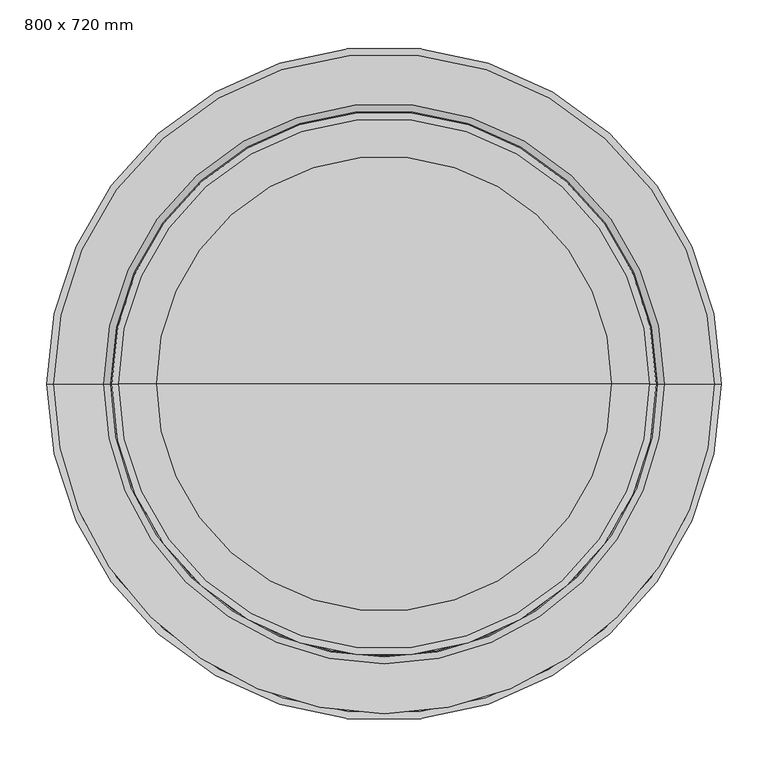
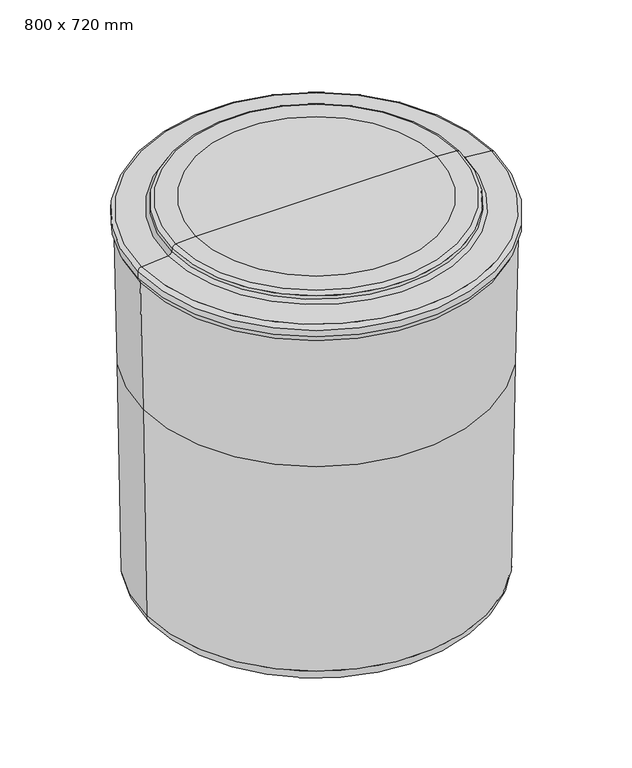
"""IFC4 building model written with IfcOpenShell, lengths in millimetres: proxy geometry, BWT_Bac à sel type 1 : 800 x 720 mm."""

from ifc_helpers import new_model, si_unit, point, frame, origin, place, context, project, spatial, polyline, circle_curve, ellipse_curve, trimmed, source, transform, mapped, element, save
from ifc_brep_helpers import plane_surface, cylinder_surface, revolved_surface, advanced_brep


def proxy_800_x_720_mm_2ee91da9(model_context):
    return source(origin(), model_context, "Body", "AdvancedBrep", [
        advanced_brep(
        [(348.4607428, 0.0, 468.7394346), (-348.4607428, 0.0, 468.7394346), (-354.0, 0.0, 740.0), (354.0, 0.0, 740.0), (341.4173957, 0.0, 28.3474108), (-341.4173957, 0.0, 28.3474108), (0.0, 0.0, 0.0), (-313.5, 0.0, 0.0), (313.5, 0.0, 0.0), (242.2953745, 0.0, 800.0), (-242.2953745, 0.0, 800.0), (0.0, 0.0, 800.0), (282.6452336, 0.0, 797.7126502), (-282.6452336, 0.0, 797.7126502), (290.105008, 0.0, 791.1127994), (-290.105008, 0.0, 791.1127994), (291.203396, 0.0, 784.8835314), (-291.203396, 0.0, 784.8835314), (298.3846121, 0.0, 778.3031593), (-298.3846121, 0.0, 778.3031593), (351.6972459, 0.0, 773.6389082), (-351.6972459, 0.0, 773.6389082), (359.0, 0.0, 765.6693506), (-359.0, 0.0, 765.6693506), (359.0, 0.0, 752.0), (-359.0, 0.0, 752.0), (356.5506787, 0.0, 752.0), (-356.5506787, 0.0, 752.0)],
        [
            (0, 1, circle_curve(frame((0.0, 0.0, 468.7394346), z_axis=(0.0, 0.0, 1.0), x_axis=(-1.0, 0.0, 0.0)), 348.4607428)),
            (1, 2),
            (2, 3, circle_curve(frame((0.0, 0.0, 740.0), z_axis=(0.0, 0.0, -1.0), x_axis=(-1.0, 0.0, 0.0)), 354.0)),
            (3, 0),
            (1, 0, circle_curve(frame((0.0, 0.0, 468.7394346), z_axis=(0.0, 0.0, 1.0), x_axis=(-1.0, 0.0, 0.0)), 348.4607428)),
            (3, 2, circle_curve(frame((0.0, 0.0, 740.0), z_axis=(0.0, 0.0, -1.0), x_axis=(-1.0, 0.0, 0.0)), 354.0)),
            (4, 5, circle_curve(frame((0.0, 0.0, 28.3474108), z_axis=(0.0, 0.0, 1.0), x_axis=(-1.0, 0.0, 0.0)), 341.4173957)),
            (5, 1),
            (0, 4),
            (5, 4, circle_curve(frame((0.0, 0.0, 28.3474108), z_axis=(0.0, 0.0, 1.0), x_axis=(-1.0, 0.0, 0.0)), 341.4173957)),
            (6, 7),
            (7, 8, circle_curve(frame((0.0, 0.0, 0.0), z_axis=(0.0, 0.0, -1.0), x_axis=(-1.0, 0.0, 0.0)), 313.5)),
            (8, 6),
            (8, 7, circle_curve(frame((0.0, 0.0, 0.0), z_axis=(0.0, 0.0, -1.0), x_axis=(-1.0, 0.0, 0.0)), 313.5)),
            (9, 10, circle_curve(frame((0.0, 0.0, 800.0), z_axis=(0.0, 0.0, 1.0), x_axis=(-1.0, 0.0, 0.0)), 242.2953745)),
            (10, 11),
            (11, 9),
            (10, 9, circle_curve(frame((0.0, 0.0, 800.0), z_axis=(0.0, 0.0, 1.0), x_axis=(-1.0, 0.0, 0.0)), 242.2953745)),
            (12, 13, circle_curve(frame((0.0, 0.0, 797.7126502), z_axis=(0.0, 0.0, 1.0), x_axis=(-1.0, 0.0, 0.0)), 282.6452336)),
            (13, 10),
            (9, 12),
            (13, 12, circle_curve(frame((0.0, 0.0, 797.7126502), z_axis=(0.0, 0.0, 1.0), x_axis=(-1.0, 0.0, 0.0)), 282.6452336)),
            (14, 15, circle_curve(frame((0.0, 0.0, 791.1127994), z_axis=(0.0, 0.0, 1.0), x_axis=(-1.0, 0.0, 0.0)), 290.105008)),
            (15, 13, circle_curve(frame((-282.226546, 0.0, 789.723614), z_axis=(0.0, 1.0, 0.0), x_axis=(1.0, 0.0, 0.0)), 8.0)),
            (12, 14, circle_curve(frame((282.226546, 0.0, 789.723614), z_axis=(0.0, 1.0, 0.0), x_axis=(-1.0, 0.0, 0.0)), 8.0)),
            (15, 14, circle_curve(frame((0.0, 0.0, 791.1127994), z_axis=(0.0, 0.0, 1.0), x_axis=(-1.0, 0.0, 0.0)), 290.105008)),
            (16, 17, circle_curve(frame((0.0, 0.0, 784.8835314), z_axis=(0.0, 0.0, 1.0), x_axis=(-1.0, 0.0, 0.0)), 291.203396)),
            (17, 15),
            (14, 16),
            (17, 16, circle_curve(frame((0.0, 0.0, 784.8835314), z_axis=(0.0, 0.0, 1.0), x_axis=(-1.0, 0.0, 0.0)), 291.203396)),
            (18, 19, circle_curve(frame((0.0, 0.0, 778.3031593), z_axis=(0.0, 0.0, 1.0), x_axis=(-1.0, 0.0, 0.0)), 298.3846121)),
            (19, 17, circle_curve(frame((-299.081858, 0.0, 786.2727169), z_axis=(0.0, -1.0, 0.0), x_axis=(1.0, 0.0, 0.0)), 8.0)),
            (16, 18, circle_curve(frame((299.081858, 0.0, 786.2727169), z_axis=(0.0, -1.0, 0.0), x_axis=(-1.0, 0.0, 0.0)), 8.0)),
            (19, 18, circle_curve(frame((0.0, 0.0, 778.3031593), z_axis=(0.0, 0.0, 1.0), x_axis=(-1.0, 0.0, 0.0)), 298.3846121)),
            (20, 21, circle_curve(frame((0.0, 0.0, 773.6389082), z_axis=(0.0, 0.0, 1.0), x_axis=(-1.0, 0.0, 0.0)), 351.6972459)),
            (21, 19),
            (18, 20),
            (21, 20, circle_curve(frame((0.0, 0.0, 773.6389082), z_axis=(0.0, 0.0, 1.0), x_axis=(-1.0, 0.0, 0.0)), 351.6972459)),
            (22, 23, circle_curve(frame((0.0, 0.0, 765.6693506), z_axis=(0.0, 0.0, 1.0), x_axis=(-1.0, 0.0, 0.0)), 359.0)),
            (23, 21, circle_curve(frame((-351.0, 0.0, 765.6693506), z_axis=(0.0, 1.0, 0.0), x_axis=(1.0, 0.0, 0.0)), 8.0)),
            (20, 22, circle_curve(frame((351.0, 0.0, 765.6693506), z_axis=(0.0, 1.0, 0.0), x_axis=(-1.0, 0.0, 0.0)), 8.0)),
            (23, 22, circle_curve(frame((0.0, 0.0, 765.6693506), z_axis=(0.0, 0.0, 1.0), x_axis=(-1.0, 0.0, 0.0)), 359.0)),
            (24, 25, circle_curve(frame((0.0, 0.0, 752.0), z_axis=(0.0, 0.0, 1.0), x_axis=(-1.0, 0.0, 0.0)), 359.0)),
            (25, 23),
            (22, 24),
            (25, 24, circle_curve(frame((0.0, 0.0, 752.0), z_axis=(0.0, 0.0, 1.0), x_axis=(-1.0, 0.0, 0.0)), 359.0)),
            (26, 27, circle_curve(frame((0.0, 0.0, 752.0), z_axis=(0.0, 0.0, 1.0), x_axis=(-1.0, 0.0, 0.0)), 356.5506787)),
            (27, 25),
            (24, 26),
            (27, 26, circle_curve(frame((0.0, 0.0, 752.0), z_axis=(0.0, 0.0, 1.0), x_axis=(-1.0, 0.0, 0.0)), 356.5506787)),
            (2, 27),
            (26, 3),
            (7, 5, circle_curve(frame((-312.424297, 0.0, 28.9800425), z_axis=(0.0, 1.0, 0.0), x_axis=(1.0, 0.0, 0.0)), 29.0)),
            (4, 8, circle_curve(frame((312.424297, 0.0, 28.9800425), z_axis=(0.0, 1.0, 0.0), x_axis=(-1.0, 0.0, 0.0)), 29.0)),
        ],
        [
            revolved_surface(polyline([(-354.0, 0.0, 740.0), (-348.4607428, 0.0, 468.7394346)]), (0.0, 0.0, 2224.3150031), (0.0, 0.0, -1.0)),
            revolved_surface(polyline([(-348.4607428, 0.0, 468.7394346), (-341.4173957, 0.0, 28.3474108)]), (0.0, 0.0, 2224.3150031), (0.0, 0.0, -1.0)),
            plane_surface(frame((0.0, 0.0, 0.0), z_axis=(0.0, 0.0, -1.0), x_axis=(-1.0, 0.0, 0.0))),
            plane_surface(frame((0.0, 0.0, 800.0), z_axis=(0.0, 0.0, 1.0), x_axis=(-1.0, 0.0, 0.0))),
            revolved_surface(polyline([(-242.2953745, 0.0, 800.0), (-282.6452336, 0.0, 797.7126502)]), (0.0, 0.0, 2224.3150031), (0.0, 0.0, -1.0)),
            revolved_surface(trimmed(ellipse_curve(frame((-282.226546, 0.0, 789.723614), z_axis=(0.0, -1.0, 0.0), x_axis=(1.0, 0.0, 0.0)), 8.0, 8.0), [point((-282.6452336, 0.0, 797.7126502))], [point((-290.105008, 0.0, 791.1127994))], True, "CARTESIAN"), (0.0, 0.0, 2224.3150031), (0.0, 0.0, -1.0)),
            revolved_surface(polyline([(-290.105008, 0.0, 791.1127994), (-291.203396, 0.0, 784.8835314)]), (0.0, 0.0, 2224.3150031), (0.0, 0.0, -1.0)),
            revolved_surface(trimmed(ellipse_curve(frame((-299.081858, 0.0, 786.2727169), z_axis=(0.0, 1.0, 0.0), x_axis=(1.0, 0.0, 0.0)), 8.0, 8.0), [point((-291.203396, 0.0, 784.8835314))], [point((-298.3846121, 0.0, 778.3031593))], True, "CARTESIAN"), (0.0, 0.0, 2224.3150031), (0.0, 0.0, -1.0)),
            revolved_surface(polyline([(-298.3846121, 0.0, 778.3031593), (-351.6972459, 0.0, 773.6389082)]), (0.0, 0.0, 2224.3150031), (0.0, 0.0, -1.0)),
            revolved_surface(trimmed(ellipse_curve(frame((-351.0, 0.0, 765.6693506), z_axis=(0.0, -1.0, 0.0), x_axis=(1.0, 0.0, 0.0)), 8.0, 8.0), [point((-351.6972459, 0.0, 773.6389082))], [point((-359.0, 0.0, 765.6693506))], True, "CARTESIAN"), (0.0, 0.0, 2224.3150031), (0.0, 0.0, -1.0)),
            cylinder_surface(frame((0.0, 0.0, 2224.3150031), z_axis=(0.0, 0.0, -1.0), x_axis=(-1.0, 0.0, 0.0)), 359.0),
            plane_surface(frame((0.0, 0.0, 752.0), z_axis=(0.0, 0.0, -1.0), x_axis=(-1.0, 0.0, 0.0))),
            revolved_surface(polyline([(-356.5506787, 0.0, 752.0), (-354.0, 0.0, 740.0)]), (0.0, 0.0, 2224.3150031), (0.0, 0.0, -1.0)),
            revolved_surface(trimmed(ellipse_curve(frame((-312.424297, 0.0, 28.9800425), z_axis=(0.0, -1.0, 0.0), x_axis=(1.0, 0.0, 0.0)), 29.0, 29.0), [point((-341.4173957, 0.0, 28.3474108))], [point((-313.5, 0.0, 0.0))], True, "CARTESIAN"), (0.0, 0.0, 2224.3150031), (0.0, 0.0, -1.0)),
        ],
        [
            (0, [[1, 2, 3, 4]]),
            (0, [[5, -4, 6, -2]]),
            (1, [[7, 8, -1, 9]]),
            (1, [[10, -9, -5, -8]]),
            (2, [[11, 12, 13]]),
            (2, [[-13, 14, -11]]),
            (3, [[15, 16, 17]]),
            (3, [[18, -17, -16]]),
            (4, [[19, 20, -15, 21]]),
            (4, [[22, -21, -18, -20]]),
            (5, [[23, 24, -19, 25]]),
            (5, [[26, -25, -22, -24]]),
            (6, [[27, 28, -23, 29]]),
            (6, [[30, -29, -26, -28]]),
            (7, [[31, 32, -27, 33]]),
            (7, [[34, -33, -30, -32]]),
            (8, [[35, 36, -31, 37]]),
            (8, [[38, -37, -34, -36]]),
            (9, [[39, 40, -35, 41]]),
            (9, [[42, -41, -38, -40]]),
            (10, [[43, 44, -39, 45]]),
            (10, [[46, -45, -42, -44]]),
            (11, [[47, 48, -43, 49]]),
            (11, [[50, -49, -46, -48]]),
            (12, [[-3, 51, -47, 52]]),
            (12, [[-6, -52, -50, -51]]),
            (13, [[-12, 53, -7, 54]]),
            (13, [[-14, -54, -10, -53]]),
        ],
    ),
    ])


if __name__ == "__main__":
    model = new_model("IFC4")
    model_context = context("Model", 3, world=origin())
    ifc_project = project(units=[si_unit("LENGTHUNIT", "METRE", prefix="MILLI")], contexts=[model_context])
    site = spatial("IfcSite", under=ifc_project)
    building = spatial("IfcBuilding", under=site)
    placement = place(None, origin())
    proxy_800_x_720_mm_shape = proxy_800_x_720_mm_2ee91da9(model_context)
    element("IfcBuildingElementProxy", 1, Name="BWT_Bac à sel type 1 : 800 x 720 mm", ObjectType="BWT_Bac à sel type 1 : 800 x 720 mm", at=placement, inside=building, context=model_context, shape_type="MappedRepresentation", body=[
        mapped(proxy_800_x_720_mm_shape, transform((0.0, 0.0, 0.0), x_axis=(1.0, 0.0, 0.0), y_axis=(0.0, 1.0, 0.0), z_axis=(0.0, 0.0, 1.0))),
    ])
    save(model, "model.ifc")
